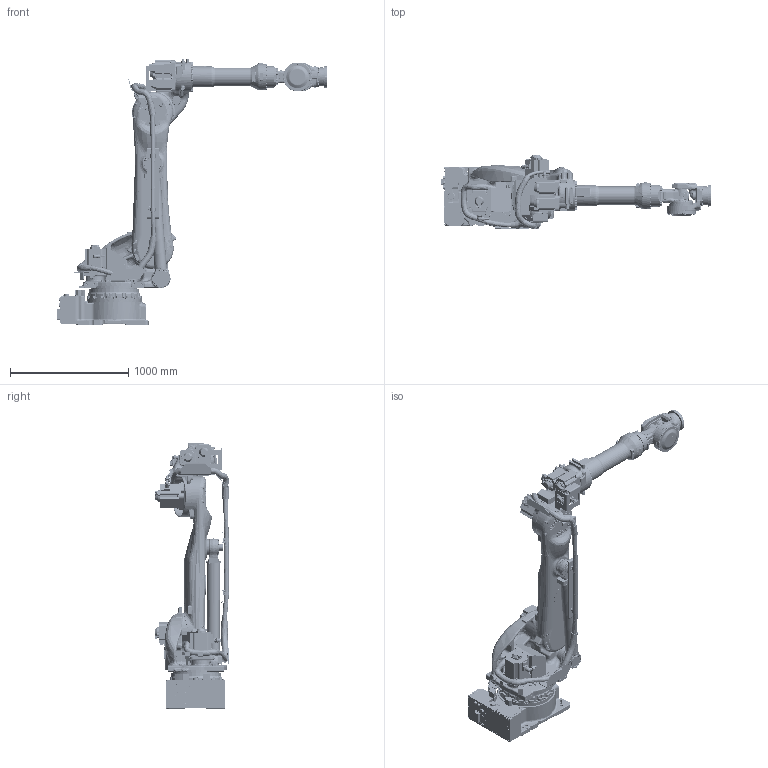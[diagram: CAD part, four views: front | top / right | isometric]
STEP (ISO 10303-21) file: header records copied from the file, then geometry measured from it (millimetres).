
FILE_DESCRIPTION((''),'2;1');
FILE_NAME('GP225_ASM_ASM','2017-12-08T',('HID'),('YASKAWA ELECTRIC CORPORATION'),'PRO/ENGINEER BY PARAMETRIC TECHNOLOGY CORPORATION, 2014200','PRO/ENGINEER BY PARAMETRIC TECHNOLOGY CORPORATION, 2014200','');
FILE_SCHEMA(('CONFIG_CONTROL_DESIGN'));
Products named in the file (10): BASE_AXIS; S_AXIS; L_AXIS; BALANCER_1_AXIS; BALANCER_2_AXIS; U_AXIS; R_AXIS; B_AXIS; T_AXIS; GP225_ASM_ASM
Assembly tree (9 placements, depth 2):
  GP225_ASM_ASM
    BASE_AXIS
    S_AXIS
    L_AXIS
    BALANCER_1_AXIS
    BALANCER_2_AXIS
    U_AXIS
    R_AXIS
    B_AXIS
    T_AXIS
Bounding box: 2284.85 x 630.7 x 2253 mm (x, y, z)
Volume: 270680320.9 mm3; surface area: 10118410.3 mm2
Topology: 9 solids, 54 shells, 11805 faces, 28501 edges, 17691 vertices
Faces by surface type: cylinder 4336, plane 3891, bspline 1369, cone 1231, torus 783, sphere 186, extrusion 6, revolution 3
Entity records: 516796 total; most frequent: CARTESIAN_POINT 247987, ORIENTED_EDGE 56784, DIRECTION 55301, EDGE_CURVE 28392, AXIS2_PLACEMENT_3D 21858, VERTEX_POINT 17691, EDGE_LOOP 13079, FACE_OUTER_BOUND 11805
